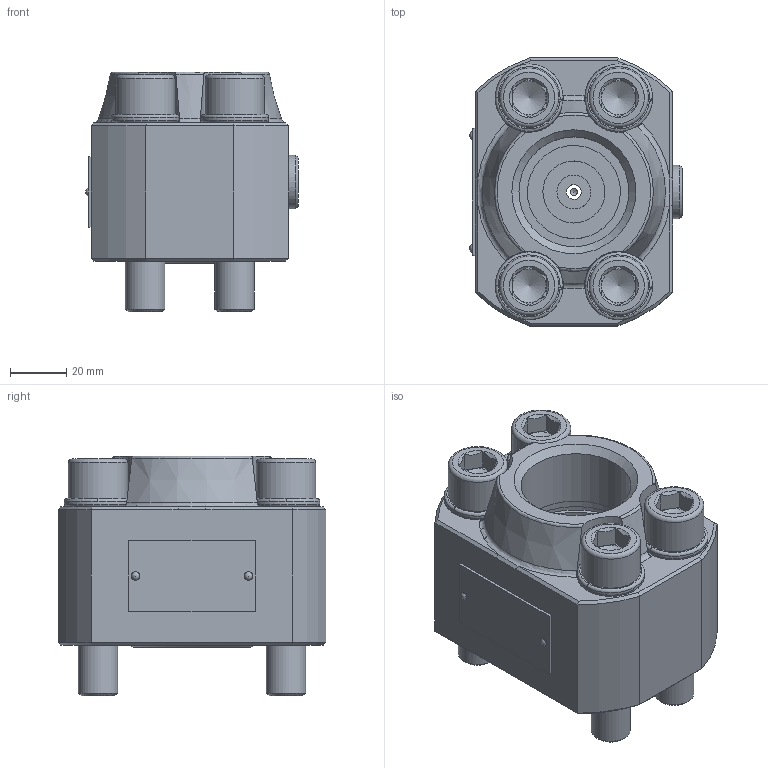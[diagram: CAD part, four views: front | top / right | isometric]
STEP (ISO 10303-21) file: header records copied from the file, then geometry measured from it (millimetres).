
FILE_DESCRIPTION(/* description */ (''),/* implementation_level */ '2;1');
FILE_NAME(/* name */ 'C:\Users\marcop\Desktop\NRV 3 H.stp',/* time_stamp */ '2019-11-11T10:02:49+01:00',/* author */ ('marcop'),/* organization */ (''),/* preprocessor_version */ 'ST-DEVELOPER v17',/* originating_system */ 'Autodesk Inventor 2018',/* authorisation */ '');
FILE_SCHEMA (('AUTOMOTIVE_DESIGN { 1 0 10303 214 3 1 1 }'));
Length unit declared in the file: millimetre
Products named in the file (1): 2020000800_Shrinkwrap_1
Bounding box: 75.5 x 95 x 85 mm (x, y, z)
Volume: 308362.9 mm3; surface area: 85555 mm2
Topology: 16 solids, 16 shells, 467 faces, 1160 edges, 742 vertices
Faces by surface type: plane 181, cylinder 105, bspline 82, cone 59, torus 38, sphere 2
Full cylindrical faces by diameter (mm): 1.6 x2, 1.7 x2, 2.5 x4, 10.7 x1, 11.445 x1, 12 x1, 13.157 x1, 14 x4, 14.75 x4, 15 x4, 16.5 x1, 19 x1, 20 x1, 21 x4, 22 x1, 24 x4, 30 x1, 31 x1, 33 x1, 36 x1, 38.952 x1, 40.8 x1, 44.9 x2, 45 x4, 47.8 x1, 52 x2
Entity records: 16162 total; most frequent: CARTESIAN_POINT 5092, ORIENTED_EDGE 2298, DIRECTION 2047, EDGE_CURVE 1149, AXIS2_PLACEMENT_3D 863, VERTEX_POINT 742, EDGE_LOOP 515, STYLED_ITEM 483
